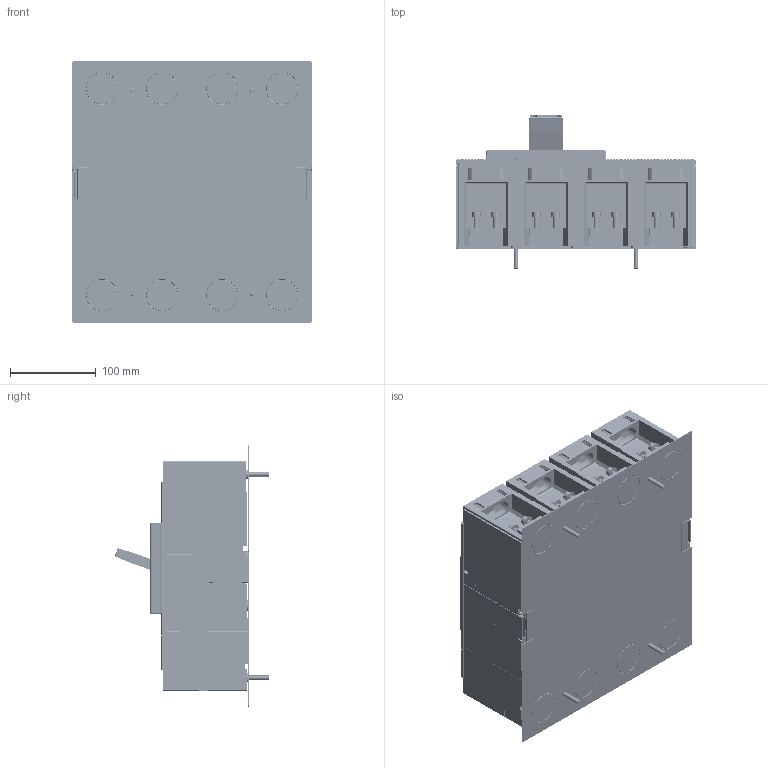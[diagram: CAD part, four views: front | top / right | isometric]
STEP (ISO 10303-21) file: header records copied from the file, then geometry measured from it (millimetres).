
FILE_DESCRIPTION((''),'2;1');
FILE_NAME('10000907949_ASM','2013-12-11T',('Knagaraj'),(''),'PRO/ENGINEER BY PARAMETRIC TECHNOLOGY CORPORATION, 2010140','PRO/ENGINEER BY PARAMETRIC TECHNOLOGY CORPORATION, 2010140','');
FILE_SCHEMA(('CONFIG_CONTROL_DESIGN'));
Products named in the file (10): 10000701834; 10000656504; 10000857056; 10000907943; 10000907944; 10000907945_ASM; 10000907946; 10000907947; 10000907948_ASM; 10000907949_ASM
Assembly tree (18 placements, depth 4):
  10000907949_ASM
    10000701834
    10000656504  x4
    10000857056
    10000907948_ASM  x4
      10000907945_ASM
        10000907943
        10000907944  x2
      10000907946
      10000907947
Bounding box: 280 x 179.53 x 305 mm (x, y, z)
Surface area: 1047661.2 mm2 (no closed solid volume)
Topology: 0 solids, 64 shells, 8111 faces, 23748 edges, 15372 vertices
Faces by surface type: plane 5655, cylinder 1851, cone 354, sphere 140, torus 63, extrusion 40, bspline 8
Entity records: 251935 total; most frequent: CARTESIAN_POINT 51549, ORIENTED_EDGE 43715, DIRECTION 39371, EDGE_CURVE 21971, VECTOR 16313, LINE 16273, VERTEX_POINT 14291, AXIS2_PLACEMENT_3D 11529
